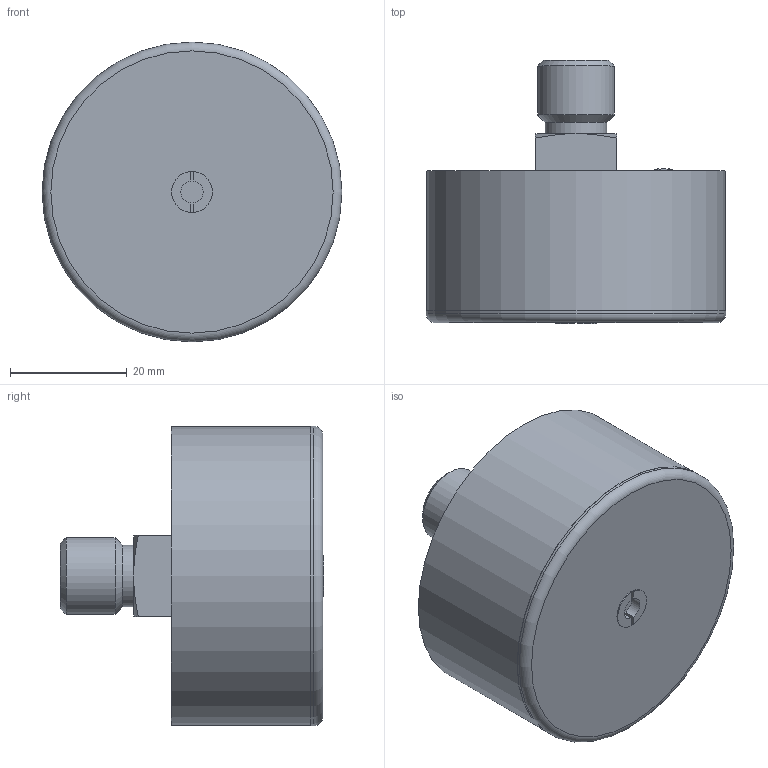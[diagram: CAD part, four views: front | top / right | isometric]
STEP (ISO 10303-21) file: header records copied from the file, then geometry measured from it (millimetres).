
FILE_DESCRIPTION(('STEP AP203'), '1');
FILE_NAME('VT.TM50.TF.02', '', ('UNSPECIFIED'), ('UNSPECIFIED'), 'C3D Converter', 'C3D Toolkit', '');
FILE_SCHEMA(('CONFIG_CONTROL_DESIGN'));
Length unit declared in the file: millimetre
Products named in the file (1): ВР.408667.009.000 СБ
Bounding box: 51.4 x 45.2 x 51.4 mm (x, y, z)
Volume: 55810.2 mm3; surface area: 9485.7 mm2
Topology: 1 solids, 1 shells, 98 faces, 246 edges, 157 vertices
Faces by surface type: plane 52, cylinder 21, cone 13, torus 10, bspline 2
Full cylindrical faces by diameter (mm): 4 x1, 10.6 x1, 13.157 x1, 51.3 x1, 51.4 x1
Entity records: 4850 total; most frequent: CARTESIAN_POINT 2586, ORIENTED_EDGE 472, DIRECTION 432, EDGE_CURVE 236, AXIS2_PLACEMENT_3D 161, VERTEX_POINT 157, EDGE_LOOP 115, LINE 110
